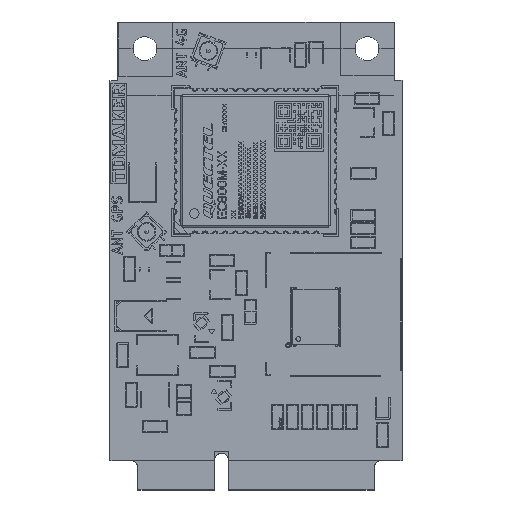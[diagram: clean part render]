
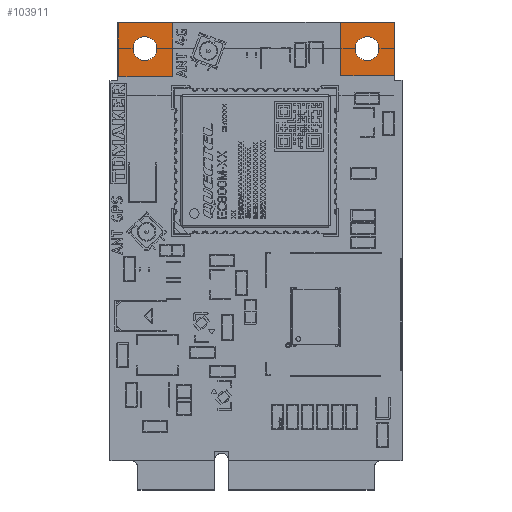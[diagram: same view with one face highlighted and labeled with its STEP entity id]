
A CAD part, top view. The second image highlights one B-rep face of the part: STEP entity #103911.
In plain terms, the highlighted planar face has unit normal (0, 0, 1).
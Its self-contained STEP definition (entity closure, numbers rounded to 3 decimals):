
#103640 = VERTEX_POINT('',#103641);
#103641 = CARTESIAN_POINT('',(15.05,19.125,1.));
#103647 = EDGE_CURVE('',#103640,#103648,#103650,.T.);
#103648 = VERTEX_POINT('',#103649);
#103649 = CARTESIAN_POINT('',(15.9,19.125,1.));
#103650 = LINE('',#103651,#103652);
#103651 = CARTESIAN_POINT('',(15.05,19.125,1.));
#103652 = VECTOR('',#103653,1.);
#103653 = DIRECTION('',(1.,0.,0.));
#103680 = VERTEX_POINT('',#103681);
#103681 = CARTESIAN_POINT('',(15.05,25.475,1.));
#103687 = EDGE_CURVE('',#103680,#103640,#103688,.T.);
#103688 = LINE('',#103689,#103690);
#103689 = CARTESIAN_POINT('',(15.05,25.475,1.));
#103690 = VECTOR('',#103691,1.);
#103691 = DIRECTION('',(0.,-1.,0.));
#103709 = EDGE_CURVE('',#103648,#103710,#103712,.T.);
#103710 = VERTEX_POINT('',#103711);
#103711 = CARTESIAN_POINT('',(15.9,-22.275,1.));
#103712 = LINE('',#103713,#103714);
#103713 = CARTESIAN_POINT('',(15.9,19.125,1.));
#103714 = VECTOR('',#103715,1.);
#103715 = DIRECTION('',(0.,-1.,0.));
#103911 = ADVANCED_FACE('',(#103912,#104038,#104049,#104060,#104071),
  #104082,.T.);
#103912 = FACE_BOUND('',#103913,.T.);
#103913 = EDGE_LOOP('',(#103914,#103915,#103916,#103924,#103932,#103940,
    #103948,#103956,#103965,#103973,#103981,#103989,#103998,#104006,
    #104014,#104022,#104031,#104037));
#103914 = ORIENTED_EDGE('',*,*,#103647,.F.);
#103915 = ORIENTED_EDGE('',*,*,#103687,.F.);
#103916 = ORIENTED_EDGE('',*,*,#103917,.F.);
#103917 = EDGE_CURVE('',#103918,#103680,#103920,.T.);
#103918 = VERTEX_POINT('',#103919);
#103919 = CARTESIAN_POINT('',(-15.05,25.475,1.));
#103920 = LINE('',#103921,#103922);
#103921 = CARTESIAN_POINT('',(-15.05,25.475,1.));
#103922 = VECTOR('',#103923,1.);
#103923 = DIRECTION('',(1.,0.,0.));
#103924 = ORIENTED_EDGE('',*,*,#103925,.F.);
#103925 = EDGE_CURVE('',#103926,#103918,#103928,.T.);
#103926 = VERTEX_POINT('',#103927);
#103927 = CARTESIAN_POINT('',(-15.05,19.075,1.));
#103928 = LINE('',#103929,#103930);
#103929 = CARTESIAN_POINT('',(-15.05,19.075,1.));
#103930 = VECTOR('',#103931,1.);
#103931 = DIRECTION('',(0.,1.,0.));
#103932 = ORIENTED_EDGE('',*,*,#103933,.F.);
#103933 = EDGE_CURVE('',#103934,#103926,#103936,.T.);
#103934 = VERTEX_POINT('',#103935);
#103935 = CARTESIAN_POINT('',(-15.9,19.075,1.));
#103936 = LINE('',#103937,#103938);
#103937 = CARTESIAN_POINT('',(-15.9,19.075,1.));
#103938 = VECTOR('',#103939,1.);
#103939 = DIRECTION('',(1.,0.,0.));
#103940 = ORIENTED_EDGE('',*,*,#103941,.F.);
#103941 = EDGE_CURVE('',#103942,#103934,#103944,.T.);
#103942 = VERTEX_POINT('',#103943);
#103943 = CARTESIAN_POINT('',(-15.9,-22.275,1.));
#103944 = LINE('',#103945,#103946);
#103945 = CARTESIAN_POINT('',(-15.9,-22.275,1.));
#103946 = VECTOR('',#103947,1.);
#103947 = DIRECTION('',(0.,1.,0.));
#103948 = ORIENTED_EDGE('',*,*,#103949,.F.);
#103949 = EDGE_CURVE('',#103950,#103942,#103952,.T.);
#103950 = VERTEX_POINT('',#103951);
#103951 = CARTESIAN_POINT('',(-13.65,-22.275,1.));
#103952 = LINE('',#103953,#103954);
#103953 = CARTESIAN_POINT('',(-13.65,-22.275,1.));
#103954 = VECTOR('',#103955,1.);
#103955 = DIRECTION('',(-1.,0.,0.));
#103956 = ORIENTED_EDGE('',*,*,#103957,.F.);
#103957 = EDGE_CURVE('',#103958,#103950,#103960,.T.);
#103958 = VERTEX_POINT('',#103959);
#103959 = CARTESIAN_POINT('',(-12.85,-23.075,1.));
#103960 = CIRCLE('',#103961,0.8);
#103961 = AXIS2_PLACEMENT_3D('',#103962,#103963,#103964);
#103962 = CARTESIAN_POINT('',(-13.65,-23.075,1.));
#103963 = DIRECTION('',(0.,0.,1.));
#103964 = DIRECTION('',(1.,0.,-0.));
#103965 = ORIENTED_EDGE('',*,*,#103966,.F.);
#103966 = EDGE_CURVE('',#103967,#103958,#103969,.T.);
#103967 = VERTEX_POINT('',#103968);
#103968 = CARTESIAN_POINT('',(-12.85,-25.475,1.));
#103969 = LINE('',#103970,#103971);
#103970 = CARTESIAN_POINT('',(-12.85,-25.475,1.));
#103971 = VECTOR('',#103972,1.);
#103972 = DIRECTION('',(0.,1.,0.));
#103973 = ORIENTED_EDGE('',*,*,#103974,.F.);
#103974 = EDGE_CURVE('',#103975,#103967,#103977,.T.);
#103975 = VERTEX_POINT('',#103976);
#103976 = CARTESIAN_POINT('',(-4.5,-25.475,1.));
#103977 = LINE('',#103978,#103979);
#103978 = CARTESIAN_POINT('',(-4.5,-25.475,1.));
#103979 = VECTOR('',#103980,1.);
#103980 = DIRECTION('',(-1.,0.,0.));
#103981 = ORIENTED_EDGE('',*,*,#103982,.F.);
#103982 = EDGE_CURVE('',#103983,#103975,#103985,.T.);
#103983 = VERTEX_POINT('',#103984);
#103984 = CARTESIAN_POINT('',(-4.5,-22.225,1.));
#103985 = LINE('',#103986,#103987);
#103986 = CARTESIAN_POINT('',(-4.5,-22.225,1.));
#103987 = VECTOR('',#103988,1.);
#103988 = DIRECTION('',(0.,-1.,0.));
#103989 = ORIENTED_EDGE('',*,*,#103990,.F.);
#103990 = EDGE_CURVE('',#103991,#103983,#103993,.T.);
#103991 = VERTEX_POINT('',#103992);
#103992 = CARTESIAN_POINT('',(-3.,-22.225,1.));
#103993 = CIRCLE('',#103994,0.75);
#103994 = AXIS2_PLACEMENT_3D('',#103995,#103996,#103997);
#103995 = CARTESIAN_POINT('',(-3.75,-22.225,1.));
#103996 = DIRECTION('',(0.,0.,1.));
#103997 = DIRECTION('',(1.,0.,-0.));
#103998 = ORIENTED_EDGE('',*,*,#103999,.F.);
#103999 = EDGE_CURVE('',#104000,#103991,#104002,.T.);
#104000 = VERTEX_POINT('',#104001);
#104001 = CARTESIAN_POINT('',(-3.,-25.475,1.));
#104002 = LINE('',#104003,#104004);
#104003 = CARTESIAN_POINT('',(-3.,-25.475,1.));
#104004 = VECTOR('',#104005,1.);
#104005 = DIRECTION('',(0.,1.,0.));
#104006 = ORIENTED_EDGE('',*,*,#104007,.F.);
#104007 = EDGE_CURVE('',#104008,#104000,#104010,.T.);
#104008 = VERTEX_POINT('',#104009);
#104009 = CARTESIAN_POINT('',(12.85,-25.475,1.));
#104010 = LINE('',#104011,#104012);
#104011 = CARTESIAN_POINT('',(12.85,-25.475,1.));
#104012 = VECTOR('',#104013,1.);
#104013 = DIRECTION('',(-1.,0.,0.));
#104014 = ORIENTED_EDGE('',*,*,#104015,.F.);
#104015 = EDGE_CURVE('',#104016,#104008,#104018,.T.);
#104016 = VERTEX_POINT('',#104017);
#104017 = CARTESIAN_POINT('',(12.85,-23.075,1.));
#104018 = LINE('',#104019,#104020);
#104019 = CARTESIAN_POINT('',(12.85,-23.075,1.));
#104020 = VECTOR('',#104021,1.);
#104021 = DIRECTION('',(0.,-1.,0.));
#104022 = ORIENTED_EDGE('',*,*,#104023,.F.);
#104023 = EDGE_CURVE('',#104024,#104016,#104026,.T.);
#104024 = VERTEX_POINT('',#104025);
#104025 = CARTESIAN_POINT('',(13.65,-22.275,1.));
#104026 = CIRCLE('',#104027,0.8);
#104027 = AXIS2_PLACEMENT_3D('',#104028,#104029,#104030);
#104028 = CARTESIAN_POINT('',(13.65,-23.075,1.));
#104029 = DIRECTION('',(0.,0.,1.));
#104030 = DIRECTION('',(0.,1.,0.));
#104031 = ORIENTED_EDGE('',*,*,#104032,.F.);
#104032 = EDGE_CURVE('',#103710,#104024,#104033,.T.);
#104033 = LINE('',#104034,#104035);
#104034 = CARTESIAN_POINT('',(15.9,-22.275,1.));
#104035 = VECTOR('',#104036,1.);
#104036 = DIRECTION('',(-1.,0.,0.));
#104037 = ORIENTED_EDGE('',*,*,#103709,.F.);
#104038 = FACE_BOUND('',#104039,.T.);
#104039 = EDGE_LOOP('',(#104040));
#104040 = ORIENTED_EDGE('',*,*,#104041,.T.);
#104041 = EDGE_CURVE('',#104042,#104042,#104044,.T.);
#104042 = VERTEX_POINT('',#104043);
#104043 = CARTESIAN_POINT('',(13.65,-11.75,1.));
#104044 = CIRCLE('',#104045,0.375);
#104045 = AXIS2_PLACEMENT_3D('',#104046,#104047,#104048);
#104046 = CARTESIAN_POINT('',(13.65,-11.375,1.));
#104047 = DIRECTION('',(-0.,0.,-1.));
#104048 = DIRECTION('',(-0.,-1.,0.));
#104049 = FACE_BOUND('',#104050,.T.);
#104050 = EDGE_LOOP('',(#104051));
#104051 = ORIENTED_EDGE('',*,*,#104052,.T.);
#104052 = EDGE_CURVE('',#104053,#104053,#104055,.T.);
#104053 = VERTEX_POINT('',#104054);
#104054 = CARTESIAN_POINT('',(13.65,-3.25,1.));
#104055 = CIRCLE('',#104056,0.375);
#104056 = AXIS2_PLACEMENT_3D('',#104057,#104058,#104059);
#104057 = CARTESIAN_POINT('',(13.65,-2.875,1.));
#104058 = DIRECTION('',(-0.,0.,-1.));
#104059 = DIRECTION('',(-0.,-1.,0.));
#104060 = FACE_BOUND('',#104061,.T.);
#104061 = EDGE_LOOP('',(#104062));
#104062 = ORIENTED_EDGE('',*,*,#104063,.T.);
#104063 = EDGE_CURVE('',#104064,#104064,#104066,.T.);
#104064 = VERTEX_POINT('',#104065);
#104065 = CARTESIAN_POINT('',(-12.1,21.275,1.));
#104066 = CIRCLE('',#104067,1.3);
#104067 = AXIS2_PLACEMENT_3D('',#104068,#104069,#104070);
#104068 = CARTESIAN_POINT('',(-12.1,22.575,1.));
#104069 = DIRECTION('',(-0.,0.,-1.));
#104070 = DIRECTION('',(0.,-1.,-0.));
#104071 = FACE_BOUND('',#104072,.T.);
#104072 = EDGE_LOOP('',(#104073));
#104073 = ORIENTED_EDGE('',*,*,#104074,.T.);
#104074 = EDGE_CURVE('',#104075,#104075,#104077,.T.);
#104075 = VERTEX_POINT('',#104076);
#104076 = CARTESIAN_POINT('',(12.1,21.275,1.));
#104077 = CIRCLE('',#104078,1.3);
#104078 = AXIS2_PLACEMENT_3D('',#104079,#104080,#104081);
#104079 = CARTESIAN_POINT('',(12.1,22.575,1.));
#104080 = DIRECTION('',(-0.,0.,-1.));
#104081 = DIRECTION('',(0.,-1.,0.));
#104082 = PLANE('',#104083);
#104083 = AXIS2_PLACEMENT_3D('',#104084,#104085,#104086);
#104084 = CARTESIAN_POINT('',(0.,0.,1.));
#104085 = DIRECTION('',(0.,0.,1.));
#104086 = DIRECTION('',(1.,0.,-0.));
